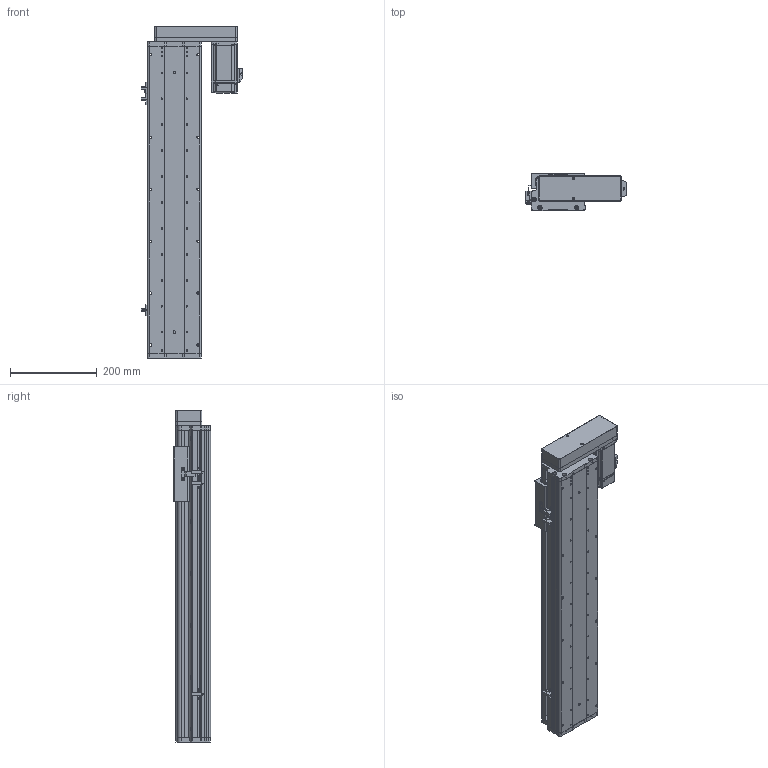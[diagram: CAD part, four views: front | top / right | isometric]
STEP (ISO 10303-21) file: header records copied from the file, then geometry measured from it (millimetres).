
FILE_DESCRIPTION (( 'STEP AP214' ), '1' );
FILE_NAME ('KSD125S-S500-MR-CM.STEP', '2017-10-21T08:56:33', ( '微软用户' ), ( '微软中国' ), 'SwSTEP 2.0', 'SolidWorks 2014', '' );
FILE_SCHEMA (( 'AUTOMOTIVE_DESIGN' ));
Length unit declared in the file: millimetre
Products named in the file (16): KSD125-賑雄釱1; KSD125S-500俴最佪裝菁啣; KSD125S-500俴最佪裝滅鳥裔; 125-帣傷啣1; KSD125S-S500-MR-CM; HTPA30S3M150_A_H6_a佪裝蚚; HTPA30S3M150_A_H6_a萇儂蚚; 125宽马达安装板连板左右折丝杆; 125悵誘欶酘衵殏; MHMD042G1CA_2_03; 拸萇儂釱滅袉菜; 拸萇儂釱滅袉菜-1; 覜茼え68遵圉猾敕; U倰嫖萇假蚾璃; U倰嫖萇EEㄜSX672; ヶ傷啣-125遵耀郪
Assembly tree (19 placements, depth 2):
  KSD125S-S500-MR-CM
    125-帣傷啣1
    KSD125S-500俴最佪裝滅鳥裔
    KSD125S-500俴最佪裝菁啣
    KSD125-賑雄釱1
    ヶ傷啣-125遵耀郪
    U倰嫖萇EEㄜSX672  x3
    U倰嫖萇假蚾璃  x3
    覜茼え68遵圉猾敕
    拸萇儂釱滅袉菜-1
    拸萇儂釱滅袉菜
    MHMD042G1CA_2_03
    125悵誘欶酘衵殏
    125宽马达安装板连板左右折丝杆
    HTPA30S3M150_A_H6_a萇儂蚚
    HTPA30S3M150_A_H6_a佪裝蚚
Bounding box: 234.2 x 86 x 767.5 mm (x, y, z)
Volume: 2643236.7 mm3; surface area: 916158.2 mm2
Topology: 18 solids, 21 shells, 2183 faces, 6327 edges, 4173 vertices
Faces by surface type: cylinder 1362, plane 680, cone 119, bspline 22
Entity records: 76853 total; most frequent: CARTESIAN_POINT 15637, DIRECTION 12001, ORIENTED_EDGE 11162, EDGE_CURVE 5659, AXIS2_PLACEMENT_3D 4635, VERTEX_POINT 3765, LINE 2731, VECTOR 2731
